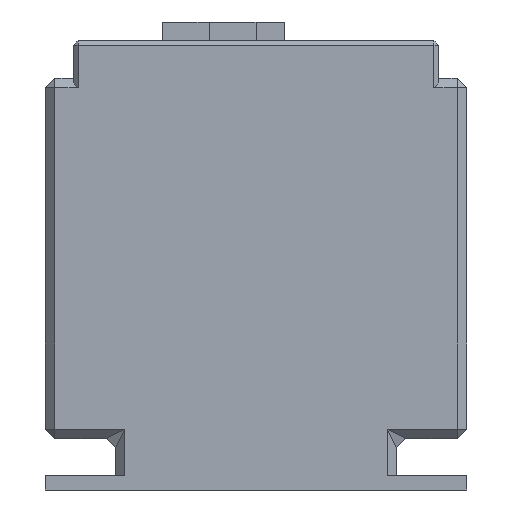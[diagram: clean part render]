
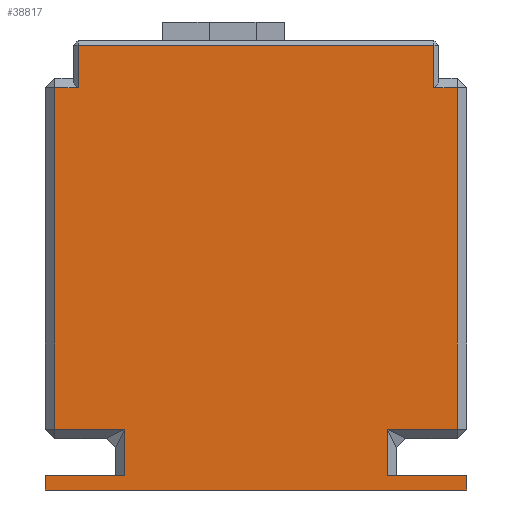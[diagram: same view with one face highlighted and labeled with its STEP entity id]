
A CAD part, left-side view. The second image highlights one B-rep face of the part: STEP entity #38817.
In plain terms, the highlighted planar face has unit normal (-1, 0, 0).
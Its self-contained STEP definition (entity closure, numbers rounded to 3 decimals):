
#4281=FACE_OUTER_BOUND('',#6609,.T.);
#6609=EDGE_LOOP('',(#32451,#32452,#32453,#32454,#32455,#32456,#32457,#32458,
#32459,#32460,#32461,#32462,#32463,#32464,#32465,#32466));
#10208=LINE('',#65550,#14074);
#10210=LINE('',#65553,#14076);
#10214=LINE('',#65563,#14080);
#10242=LINE('',#65621,#14108);
#10244=LINE('',#65624,#14110);
#10249=LINE('',#65632,#14115);
#10258=LINE('',#65648,#14124);
#10290=LINE('',#65715,#14156);
#10293=LINE('',#65720,#14159);
#10297=LINE('',#65726,#14163);
#10301=LINE('',#65734,#14167);
#10305=LINE('',#65742,#14171);
#10306=LINE('',#65744,#14172);
#10307=LINE('',#65746,#14173);
#10308=LINE('',#65748,#14174);
#10309=LINE('',#65749,#14175);
#14074=VECTOR('',#47000,10.);
#14076=VECTOR('',#47004,10.);
#14080=VECTOR('',#47014,10.);
#14108=VECTOR('',#47064,10.);
#14110=VECTOR('',#47068,10.);
#14115=VECTOR('',#47079,10.);
#14124=VECTOR('',#47094,10.);
#14156=VECTOR('',#47156,10.);
#14159=VECTOR('',#47163,10.);
#14163=VECTOR('',#47169,10.);
#14167=VECTOR('',#47177,10.);
#14171=VECTOR('',#47185,10.);
#14172=VECTOR('',#47186,10.);
#14173=VECTOR('',#47187,10.);
#14174=VECTOR('',#47188,10.);
#14175=VECTOR('',#47189,10.);
#17654=VERTEX_POINT('',#65534);
#17656=VERTEX_POINT('',#65543);
#17658=VERTEX_POINT('',#65548);
#17660=VERTEX_POINT('',#65559);
#17667=VERTEX_POINT('',#65576);
#17672=VERTEX_POINT('',#65589);
#17676=VERTEX_POINT('',#65600);
#17683=VERTEX_POINT('',#65644);
#17696=VERTEX_POINT('',#65690);
#17700=VERTEX_POINT('',#65698);
#17702=VERTEX_POINT('',#65707);
#17707=VERTEX_POINT('',#65732);
#17709=VERTEX_POINT('',#65741);
#17710=VERTEX_POINT('',#65743);
#17711=VERTEX_POINT('',#65745);
#17712=VERTEX_POINT('',#65747);
#22725=EDGE_CURVE('',#17658,#17656,#10208,.T.);
#22727=EDGE_CURVE('',#17656,#17654,#10210,.T.);
#22732=EDGE_CURVE('',#17654,#17660,#10214,.T.);
#22760=EDGE_CURVE('',#17660,#17676,#10242,.T.);
#22762=EDGE_CURVE('',#17676,#17672,#10244,.T.);
#22767=EDGE_CURVE('',#17672,#17667,#10249,.T.);
#22776=EDGE_CURVE('',#17667,#17683,#10258,.T.);
#22808=EDGE_CURVE('',#17702,#17700,#10290,.T.);
#22811=EDGE_CURVE('',#17696,#17702,#10293,.T.);
#22815=EDGE_CURVE('',#17700,#17658,#10297,.T.);
#22819=EDGE_CURVE('',#17707,#17696,#10301,.T.);
#22823=EDGE_CURVE('',#17707,#17709,#10305,.T.);
#22824=EDGE_CURVE('',#17710,#17709,#10306,.T.);
#22825=EDGE_CURVE('',#17710,#17711,#10307,.T.);
#22826=EDGE_CURVE('',#17711,#17712,#10308,.T.);
#22827=EDGE_CURVE('',#17712,#17683,#10309,.T.);
#32451=ORIENTED_EDGE('',*,*,#22815,.F.);
#32452=ORIENTED_EDGE('',*,*,#22808,.F.);
#32453=ORIENTED_EDGE('',*,*,#22811,.F.);
#32454=ORIENTED_EDGE('',*,*,#22819,.F.);
#32455=ORIENTED_EDGE('',*,*,#22823,.T.);
#32456=ORIENTED_EDGE('',*,*,#22824,.F.);
#32457=ORIENTED_EDGE('',*,*,#22825,.T.);
#32458=ORIENTED_EDGE('',*,*,#22826,.T.);
#32459=ORIENTED_EDGE('',*,*,#22827,.T.);
#32460=ORIENTED_EDGE('',*,*,#22776,.F.);
#32461=ORIENTED_EDGE('',*,*,#22767,.F.);
#32462=ORIENTED_EDGE('',*,*,#22762,.F.);
#32463=ORIENTED_EDGE('',*,*,#22760,.F.);
#32464=ORIENTED_EDGE('',*,*,#22732,.F.);
#32465=ORIENTED_EDGE('',*,*,#22727,.F.);
#32466=ORIENTED_EDGE('',*,*,#22725,.F.);
#36731=PLANE('',#40715);
#38817=ADVANCED_FACE('',(#4281),#36731,.T.);
#40715=AXIS2_PLACEMENT_3D('',#65740,#47183,#47184);
#47000=DIRECTION('',(0.,0.,1.));
#47004=DIRECTION('',(0.,-1.,0.));
#47014=DIRECTION('',(0.,0.,-1.));
#47064=DIRECTION('',(0.,-1.,0.));
#47068=DIRECTION('',(0.,0.,-1.));
#47079=DIRECTION('',(0.,1.,0.));
#47094=DIRECTION('',(0.,0.,-1.));
#47156=DIRECTION('',(0.,0.,1.));
#47163=DIRECTION('',(0.,1.,0.));
#47169=DIRECTION('',(0.,-1.,0.));
#47177=DIRECTION('',(0.,0.,1.));
#47183=DIRECTION('center_axis',(-1.,0.,0.));
#47184=DIRECTION('ref_axis',(0.,-1.,0.));
#47185=DIRECTION('',(0.,1.,0.));
#47186=DIRECTION('',(0.,0.,1.));
#47187=DIRECTION('',(0.,-1.,0.));
#47188=DIRECTION('',(0.,0.,1.));
#47189=DIRECTION('',(0.,1.,0.));
#65534=CARTESIAN_POINT('',(0.,7.,95.));
#65543=CARTESIAN_POINT('',(0.,83.,95.));
#65548=CARTESIAN_POINT('',(0.,83.,86.));
#65550=CARTESIAN_POINT('',(0.,83.,50.));
#65553=CARTESIAN_POINT('',(0.,67.5,95.));
#65559=CARTESIAN_POINT('',(0.,7.,86.));
#65563=CARTESIAN_POINT('',(0.,7.,50.));
#65576=CARTESIAN_POINT('',(0.,17.,13.));
#65589=CARTESIAN_POINT('',(0.,2.,13.));
#65600=CARTESIAN_POINT('',(0.,2.,86.));
#65621=CARTESIAN_POINT('',(0.,46.756,86.));
#65624=CARTESIAN_POINT('',(0.,2.,0.));
#65632=CARTESIAN_POINT('',(0.,45.,13.));
#65644=CARTESIAN_POINT('',(0.,17.,3.));
#65648=CARTESIAN_POINT('',(0.,17.,3.5));
#65690=CARTESIAN_POINT('',(0.,73.,13.));
#65698=CARTESIAN_POINT('',(0.,88.,86.));
#65707=CARTESIAN_POINT('',(0.,88.,13.));
#65715=CARTESIAN_POINT('',(0.,88.,0.));
#65720=CARTESIAN_POINT('',(0.,90.,13.));
#65726=CARTESIAN_POINT('',(0.,88.244,86.));
#65732=CARTESIAN_POINT('',(0.,73.,3.));
#65734=CARTESIAN_POINT('',(0.,73.,3.5));
#65740=CARTESIAN_POINT('Origin',(0.,90.,0.));
#65741=CARTESIAN_POINT('',(0.,90.,3.));
#65742=CARTESIAN_POINT('',(0.,90.,3.));
#65743=CARTESIAN_POINT('',(0.,90.,0.));
#65744=CARTESIAN_POINT('',(0.,90.,0.));
#65745=CARTESIAN_POINT('',(0.,0.,0.));
#65746=CARTESIAN_POINT('',(0.,90.,0.));
#65747=CARTESIAN_POINT('',(0.,0.,3.));
#65748=CARTESIAN_POINT('',(0.,0.,0.));
#65749=CARTESIAN_POINT('',(0.,45.,3.));
